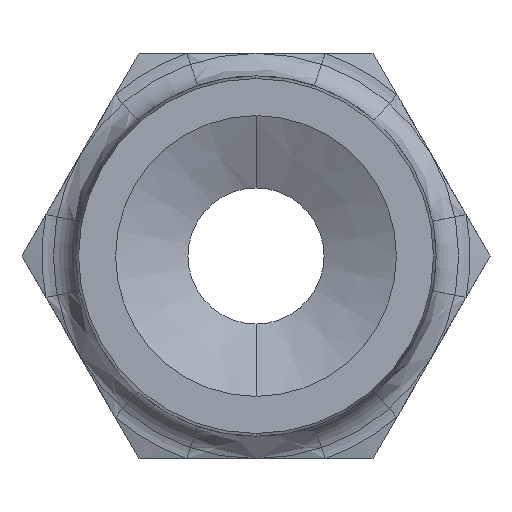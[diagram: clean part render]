
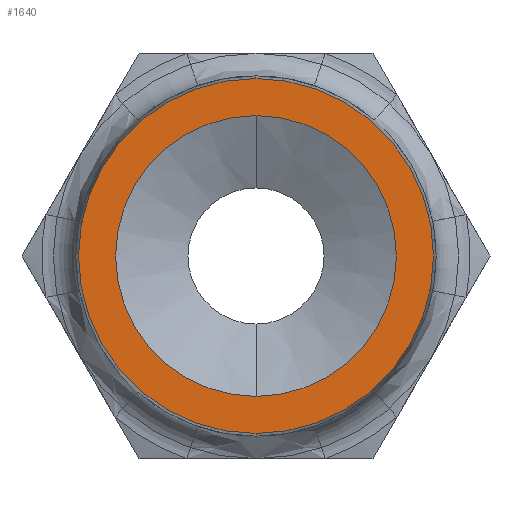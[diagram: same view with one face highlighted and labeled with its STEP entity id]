
A CAD part, left-side view. The second image highlights one B-rep face of the part: STEP entity #1640.
In plain terms, the highlighted planar face has unit normal (-1, 0, 0).
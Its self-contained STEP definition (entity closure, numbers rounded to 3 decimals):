
#266 = DIRECTION ( 'NONE',  ( 0., 0., 1. ) ) ;
#267 = DIRECTION ( 'NONE',  ( -1., 0., 0. ) ) ;
#268 = CARTESIAN_POINT ( 'NONE',  ( -23.5, 0., 0. ) ) ;
#269 = AXIS2_PLACEMENT_3D ( 'NONE', #268, #267, #266 ) ;
#270 = CIRCLE ( 'NONE', #269, 4.95 ) ;
#271 = DIRECTION ( 'NONE',  ( 0., 0., 1. ) ) ;
#272 = DIRECTION ( 'NONE',  ( -1., 0., 0. ) ) ;
#273 = AXIS2_PLACEMENT_3D ( 'NONE', #387, #272, #271 ) ;
#274 = CIRCLE ( 'NONE', #273, 6.259 ) ;
#384 = DIRECTION ( 'NONE',  ( 0., 0., 1. ) ) ;
#385 = DIRECTION ( 'NONE',  ( -1., 0., 0. ) ) ;
#386 = AXIS2_PLACEMENT_3D ( 'NONE', #388, #385, #384 ) ;
#387 = CARTESIAN_POINT ( 'NONE',  ( -23.5, 0., 0. ) ) ;
#388 = CARTESIAN_POINT ( 'NONE',  ( -23.5, 0., 0. ) ) ;
#389 = PLANE ( 'NONE',  #386 ) ;
#390 = FACE_BOUND ( 'NONE', #1644, .T. ) ;
#391 = FACE_OUTER_BOUND ( 'NONE', #1705, .T. ) ;
#1104 = EDGE_CURVE ( 'NONE', #1105, #1114, #2124, .T. ) ;
#1105 = VERTEX_POINT ( 'NONE', #2119 ) ;
#1114 = VERTEX_POINT ( 'NONE', #2066 ) ;
#1291 = VERTEX_POINT ( 'NONE', #2517 ) ;
#1293 = EDGE_CURVE ( 'NONE', #1291, #1318, #2516, .T. ) ;
#1318 = VERTEX_POINT ( 'NONE', #2416 ) ;
#1640 = ADVANCED_FACE ( 'NONE', ( #391, #390 ), #389, .T. ) ;
#1641 = ORIENTED_EDGE ( 'NONE', *, *, #1642, .T. ) ;
#1642 = EDGE_CURVE ( 'NONE', #1114, #1105, #274, .T. ) ;
#1643 = ORIENTED_EDGE ( 'NONE', *, *, #1104, .T. ) ;
#1644 = EDGE_LOOP ( 'NONE', ( #1645, #1647 ) ) ;
#1645 = ORIENTED_EDGE ( 'NONE', *, *, #1646, .F. ) ;
#1646 = EDGE_CURVE ( 'NONE', #1318, #1291, #270, .T. ) ;
#1647 = ORIENTED_EDGE ( 'NONE', *, *, #1293, .F. ) ;
#1705 = EDGE_LOOP ( 'NONE', ( #1641, #1643 ) ) ;
#2066 = CARTESIAN_POINT ( 'NONE',  ( -23.5, 0., 6.259 ) ) ;
#2119 = CARTESIAN_POINT ( 'NONE',  ( -23.5, 0., -6.259 ) ) ;
#2120 = DIRECTION ( 'NONE',  ( 0., 0., 1. ) ) ;
#2121 = DIRECTION ( 'NONE',  ( -1., 0., 0. ) ) ;
#2122 = CARTESIAN_POINT ( 'NONE',  ( -23.5, 0., 0. ) ) ;
#2123 = AXIS2_PLACEMENT_3D ( 'NONE', #2122, #2121, #2120 ) ;
#2124 = CIRCLE ( 'NONE', #2123, 6.259 ) ;
#2416 = CARTESIAN_POINT ( 'NONE',  ( -23.5, 0., 4.95 ) ) ;
#2512 = DIRECTION ( 'NONE',  ( 0., 0., 1. ) ) ;
#2513 = DIRECTION ( 'NONE',  ( -1., 0., 0. ) ) ;
#2514 = CARTESIAN_POINT ( 'NONE',  ( -23.5, 0., 0. ) ) ;
#2515 = AXIS2_PLACEMENT_3D ( 'NONE', #2514, #2513, #2512 ) ;
#2516 = CIRCLE ( 'NONE', #2515, 4.95 ) ;
#2517 = CARTESIAN_POINT ( 'NONE',  ( -23.5, 0., -4.95 ) ) ;
